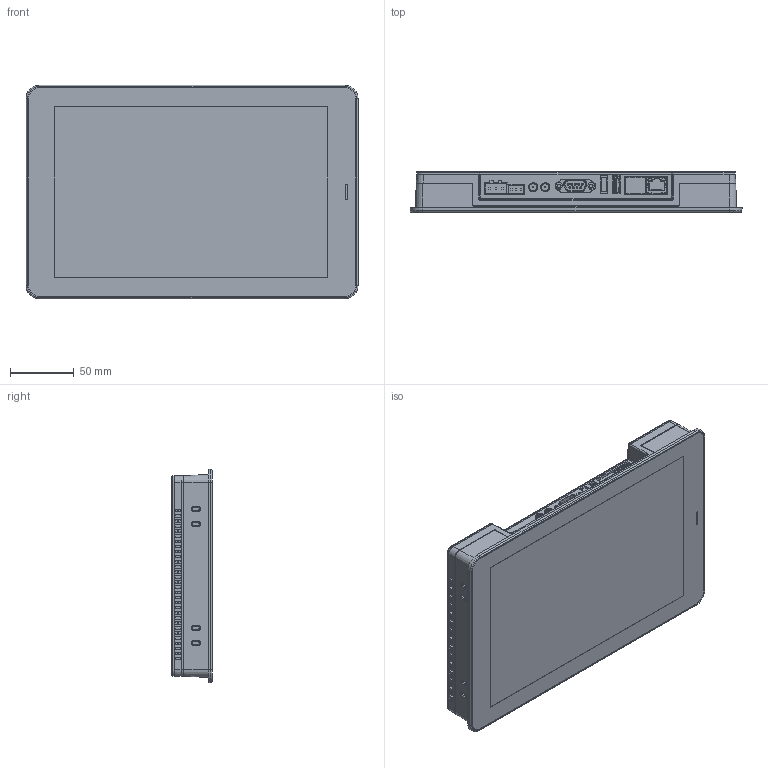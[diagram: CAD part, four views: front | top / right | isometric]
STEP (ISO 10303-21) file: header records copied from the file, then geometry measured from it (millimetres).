
FILE_DESCRIPTION (( 'STEP AP203' ), '1' );
FILE_NAME ('HMI-A10炵蹈 籵蚚3D.STEP', '2024-03-19T11:48:09', ( 'h''w''s''j''s' ), ( '' ), 'SwSTEP 2.0', 'SolidWorks 2020', '' );
FILE_SCHEMA (( 'CONFIG_CONTROL_DESIGN' ));
Products named in the file (1): HMI-A10炵蹈 籵蚚3D
Bounding box: 260.29 x 31.61 x 167.29 mm (x, y, z)
Surface area: 432491.3 mm2 (no closed solid volume)
Topology: 0 solids, 17 shells, 3178 faces, 8987 edges, 5826 vertices
Faces by surface type: plane 2421, cylinder 505, cone 90, bspline 62, sphere 51, torus 49
Entity records: 123126 total; most frequent: CARTESIAN_POINT 49614, ORIENTED_EDGE 17874, DIRECTION 11216, EDGE_CURVE 8938, VERTEX_POINT 5820, B_SPLINE_CURVE_WITH_KNOTS 4645, AXIS2_PLACEMENT_3D 3938, EDGE_LOOP 3571
